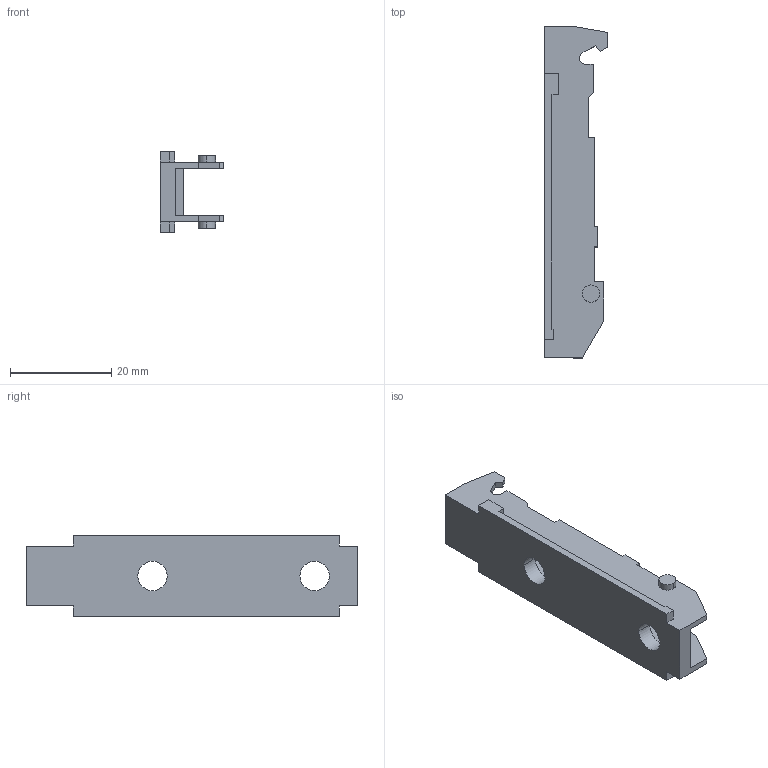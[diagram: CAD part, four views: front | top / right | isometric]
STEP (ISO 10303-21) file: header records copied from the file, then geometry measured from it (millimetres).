
FILE_DESCRIPTION (( 'STEP AP214' ), '1' );
FILE_NAME ('1D_Linearmontageplatte 20_32_Spax_Euro_H02.step', '2010-11-18T10:17:20', ( 'grass' ), ( '' ), 'SwSTEP 2.0', 'SolidWorks 2010', '' );
FILE_SCHEMA (( 'AUTOMOTIVE_DESIGN' ));
Length unit declared in the file: millimetre
Products named in the file (1): 1D_Linearmontageplatte 20_32_Spax_Euro_H02
Bounding box: 12.5 x 65.5 x 16 mm (x, y, z)
Volume: 3879.5 mm3; surface area: 4362.3 mm2
Topology: 1 solids, 1 shells, 76 faces, 216 edges, 144 vertices
Faces by surface type: plane 66, cylinder 10
Entity records: 2482 total; most frequent: CARTESIAN_POINT 437, ORIENTED_EDGE 432, DIRECTION 390, EDGE_CURVE 216, LINE 196, VECTOR 196, VERTEX_POINT 144, AXIS2_PLACEMENT_3D 97
